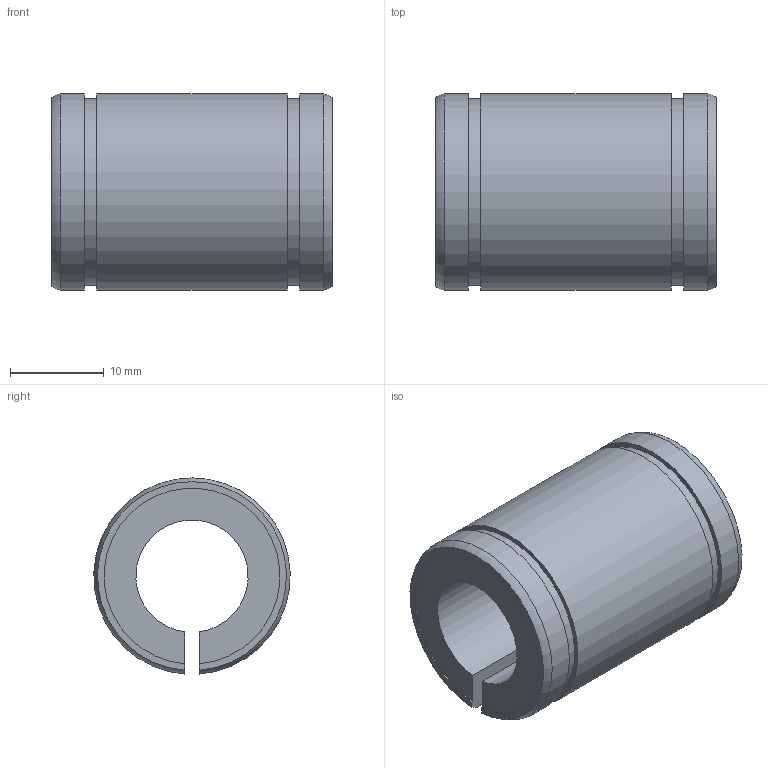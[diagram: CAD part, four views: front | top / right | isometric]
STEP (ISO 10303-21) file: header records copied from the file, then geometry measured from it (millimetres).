
FILE_DESCRIPTION((''),'2;1');
FILE_NAME('D:\製品 (図面)\カタログ用3D\リニアベアリング関連\STEP形式\L-ADJ\L12-ADJ.stp','2010-06-02T17:35:52',('Tsuchiya'),(''),'Autodesk Inventor 10','Autodesk Inventor 10','');
FILE_SCHEMA(('AUTOMOTIVE_DESIGN { 1 0 10303 214 1 1 1 1 }'));
Length unit declared in the file: millimetre
Products named in the file (1): L12-ADJ
Bounding box: 30 x 20.99 x 20.97 mm (x, y, z)
Volume: 6660.8 mm3; surface area: 3819.5 mm2
Topology: 1 solids, 1 shells, 20 faces, 54 edges, 36 vertices
Faces by surface type: plane 10, cylinder 8, torus 2
Entity records: 687 total; most frequent: CARTESIAN_POINT 147, DIRECTION 110, ORIENTED_EDGE 108, EDGE_CURVE 54, AXIS2_PLACEMENT_3D 39, VERTEX_POINT 36, VECTOR 32, LINE 32
